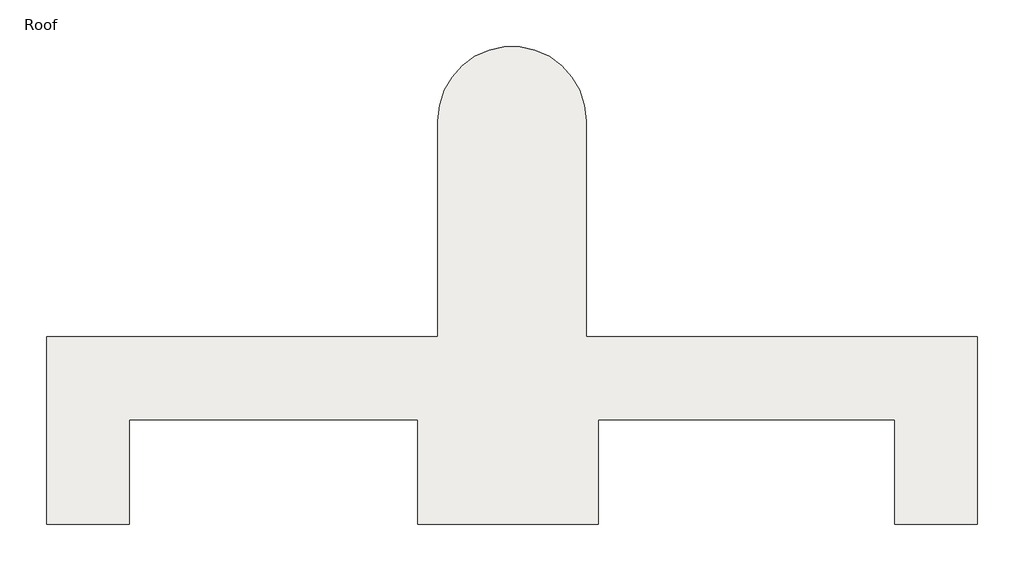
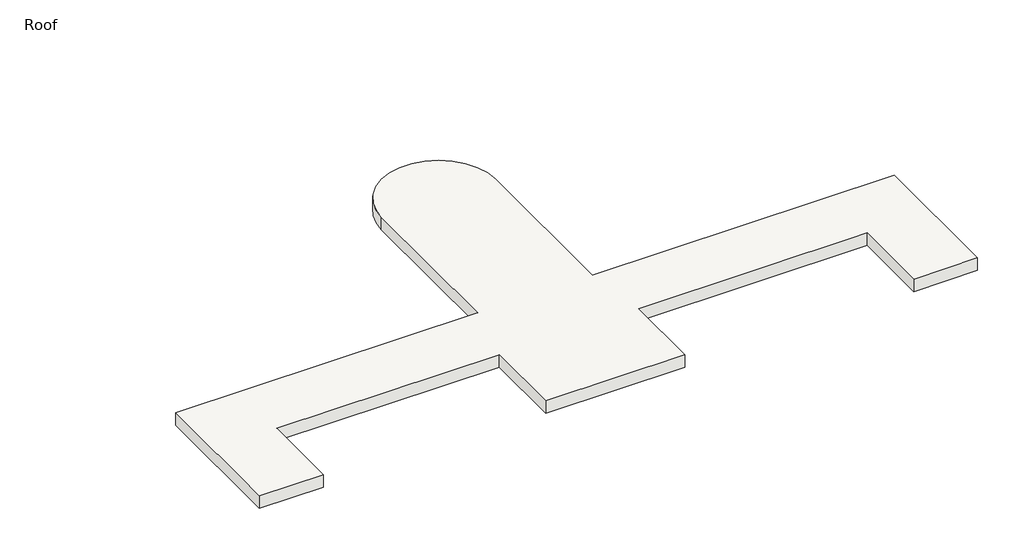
# One storey: 1 roof.
"""IFC4 building model written with IfcOpenShell, lengths in millimetres."""

from ifc_helpers import new_model, si_unit, point, frame, frame_2d, origin, place, context, project, spatial, polyline, circle_curve, trimmed, segment, composite_curve, outline, extrude, element, save

model = new_model("IFC4")

# Units and contexts
model_context = context("Model", 3, world=origin())
ifc_project = project(units=[si_unit("LENGTHUNIT", "METRE", prefix="MILLI")], contexts=[model_context])

# Site, building, storey
site = spatial("IfcSite", under=ifc_project)
building = spatial("IfcBuilding", under=site)
storey = spatial("IfcBuildingStorey", under=building, Name="Roof", Elevation=12192.0)

# Roof
placement = place(None, origin())
element("IfcRoof", 1, ObjectType="Generic - 400mm", at=placement, inside=storey, context=model_context, shape_type="SweptSolid", body=[
    extrude(outline(composite_curve([segment(polyline([(759.0924567, -939.7443399), (759.0924567, 4112.2556601)]), True, "CONTINUOUS"), segment(trimmed(circle_curve(frame_2d((2489.0924567, 4112.2556601)), 1730.0), [point((759.0924567, 4112.2556601))], [point((4219.0924567, 4112.2556601))], False, "CARTESIAN"), True, "CONTINUOUS"), segment(polyline([(4219.0924567, 4112.2556601), (4219.0924567, -939.7443399), (13363.0924567, -939.7443399), (13363.0924567, -5314.1443399), (11427.0924567, -5314.1443399), (11427.0924567, -2875.7443399), (4506.0924567, -2875.7443399), (4506.0924567, -5314.1443399), (284.0924567, -5314.1443399), (284.0924567, -2875.7443399), (-6448.9075433, -2875.7443399), (-6448.9075433, -5314.1443399), (-8384.9075433, -5314.1443399), (-8384.9075433, -939.7443399), (759.0924567, -939.7443399)]), True, "CONTINUOUS")], self_intersect=False)), frame((0.0, 0.0, 12192.0), z_axis=(0.0, 0.0, 1.0), x_axis=(1.0, 0.0, 0.0)), (0.0, 0.0, 1.0), 400.0),
])

save(model, "model.ifc")
